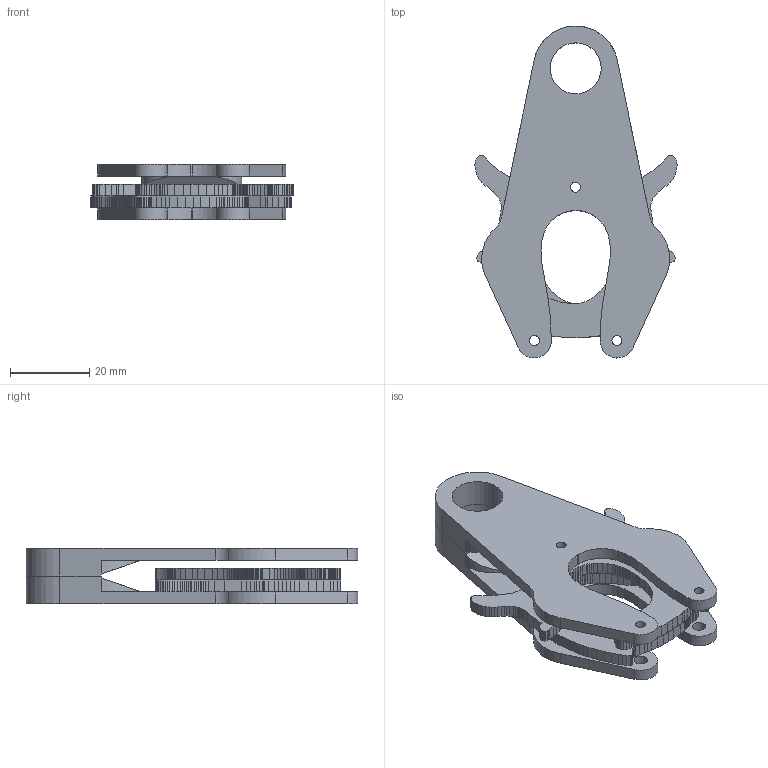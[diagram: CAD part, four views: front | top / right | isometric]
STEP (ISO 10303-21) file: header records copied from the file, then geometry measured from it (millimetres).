
FILE_DESCRIPTION(/* description */ (''),/* implementation_level */ '2;1');
FILE_NAME(/* name */ 'C:/Users/Alister/Documents/Designspark/Snap Close Connector.step',/* time_stamp */ '2021-11-20T12:46:38+11:00',/* author */ (''),/* organization */ (''),/* preprocessor_version */ 'ST-DEVELOPER v18.1',/* originating_system */ 'Autodesk Translation Framework v10.10.0.1391',/* authorisation */ '');
FILE_SCHEMA (('AUTOMOTIVE_DESIGN { 1 0 10303 214 3 1 1 }'));
Length unit declared in the file: millimetre
Products named in the file (5): Snap Close Connector; Connector Side 1; Connector Inner 1; Connector Inner 2; Connector Side 2
Assembly tree (4 placements, depth 2):
  Snap Close Connector
    Connector Side 1
    Connector Inner 1
    Connector Inner 2
    Connector Side 2
Bounding box: 50.98 x 83.68 x 14 mm (x, y, z)
Volume: 20082.2 mm3; surface area: 15946.9 mm2
Topology: 4 solids, 4 shells, 619 faces, 1827 edges, 1217 vertices
Faces by surface type: plane 547, cylinder 46, bspline 26
Full cylindrical faces by diameter (mm): 1.5 x2, 2.5 x3, 3.4 x5, 12.865 x2
Entity records: 21337 total; most frequent: CARTESIAN_POINT 4748, ORIENTED_EDGE 3654, DIRECTION 3064, EDGE_CURVE 1827, LINE 1674, VECTOR 1674, VERTEX_POINT 1217, AXIS2_PLACEMENT_3D 695
